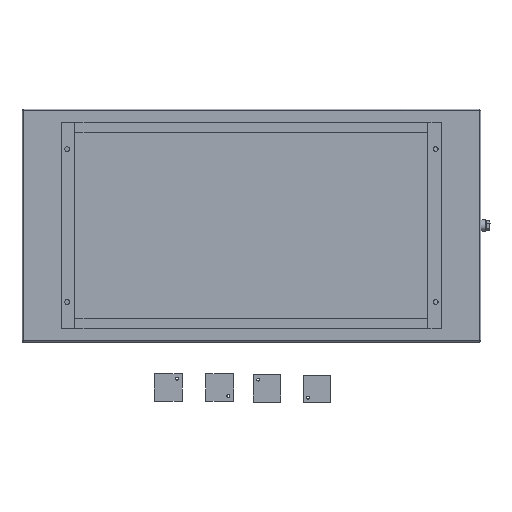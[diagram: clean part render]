
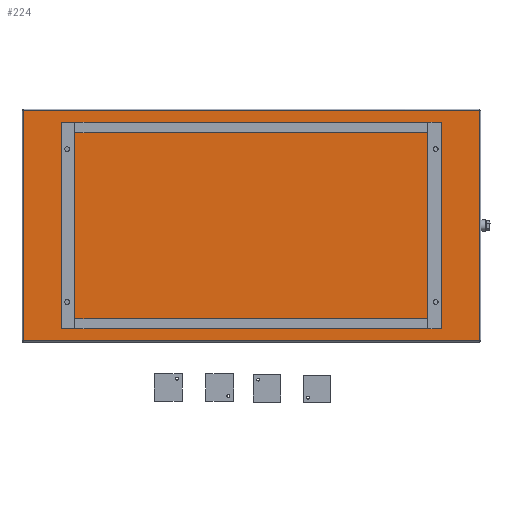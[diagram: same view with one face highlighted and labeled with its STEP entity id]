
A CAD part, front view. The second image highlights one B-rep face of the part: STEP entity #224.
In plain terms, the highlighted planar face has unit normal (0, -1, 0).
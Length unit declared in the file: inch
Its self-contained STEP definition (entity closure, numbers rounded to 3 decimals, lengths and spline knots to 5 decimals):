
#83 = AXIS2_PLACEMENT_3D ( 'NONE', #3506, #2061, #2896 ) ;
#224 = ADVANCED_FACE ( 'NONE', ( #1139 ), #2326, .T. ) ;
#349 = EDGE_CURVE ( 'NONE', #1044, #2513, #2425, .T. ) ;
#378 = ORIENTED_EDGE ( 'NONE', *, *, #2288, .T. ) ;
#397 = EDGE_LOOP ( 'NONE', ( #541, #3152, #2698, #378 ) ) ;
#421 = DIRECTION ( 'NONE',  ( 0., 0., -1. ) ) ;
#455 = VECTOR ( 'NONE', #3592, 39.37008 ) ;
#541 = ORIENTED_EDGE ( 'NONE', *, *, #349, .T. ) ;
#622 = CARTESIAN_POINT ( 'NONE',  ( 0.13457, -0.1345, -33.303 ) ) ;
#646 = CARTESIAN_POINT ( 'NONE',  ( 65.803, -0.1345, -33.36543 ) ) ;
#900 = LINE ( 'NONE', #646, #901 ) ;
#901 = VECTOR ( 'NONE', #1840, 39.37008 ) ;
#959 = EDGE_CURVE ( 'NONE', #2513, #1704, #900, .T. ) ;
#1044 = VERTEX_POINT ( 'NONE', #3679 ) ;
#1139 = FACE_OUTER_BOUND ( 'NONE', #397, .T. ) ;
#1275 = VECTOR ( 'NONE', #2792, 39.37008 ) ;
#1648 = EDGE_CURVE ( 'NONE', #1704, #2164, #3128, .T. ) ;
#1704 = VERTEX_POINT ( 'NONE', #3646 ) ;
#1840 = DIRECTION ( 'NONE',  ( 0., 0., 1. ) ) ;
#2061 = DIRECTION ( 'NONE',  ( 0., -1., 0. ) ) ;
#2164 = VERTEX_POINT ( 'NONE', #2499 ) ;
#2288 = EDGE_CURVE ( 'NONE', #2164, #1044, #3082, .T. ) ;
#2326 = PLANE ( 'NONE',  #83 ) ;
#2425 = LINE ( 'NONE', #622, #455 ) ;
#2466 = CARTESIAN_POINT ( 'NONE',  ( 0.197, -0.1345, -0.13457 ) ) ;
#2499 = CARTESIAN_POINT ( 'NONE',  ( 0.197, -0.1345, -0.197 ) ) ;
#2513 = VERTEX_POINT ( 'NONE', #3107 ) ;
#2541 = CARTESIAN_POINT ( 'NONE',  ( 65.86543, -0.1345, -0.197 ) ) ;
#2698 = ORIENTED_EDGE ( 'NONE', *, *, #1648, .T. ) ;
#2792 = DIRECTION ( 'NONE',  ( -1., 0., 0. ) ) ;
#2896 = DIRECTION ( 'NONE',  ( 0., 0., -1. ) ) ;
#3082 = LINE ( 'NONE', #2466, #3385 ) ;
#3107 = CARTESIAN_POINT ( 'NONE',  ( 65.803, -0.1345, -33.303 ) ) ;
#3128 = LINE ( 'NONE', #2541, #1275 ) ;
#3152 = ORIENTED_EDGE ( 'NONE', *, *, #959, .T. ) ;
#3385 = VECTOR ( 'NONE', #421, 39.37008 ) ;
#3506 = CARTESIAN_POINT ( 'NONE',  ( 0., -0.1345, 0. ) ) ;
#3592 = DIRECTION ( 'NONE',  ( 1., 0., 0. ) ) ;
#3646 = CARTESIAN_POINT ( 'NONE',  ( 65.803, -0.1345, -0.197 ) ) ;
#3679 = CARTESIAN_POINT ( 'NONE',  ( 0.197, -0.1345, -33.303 ) ) ;
